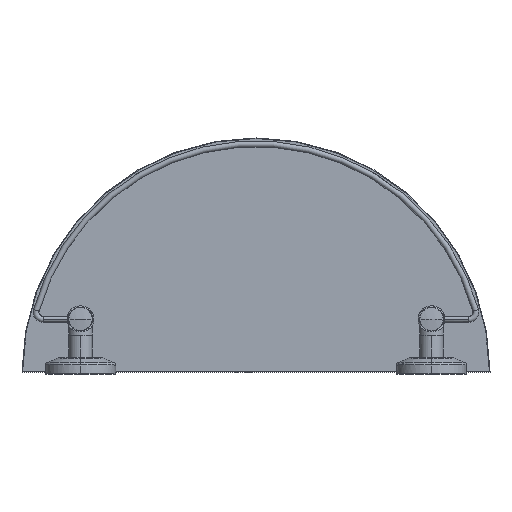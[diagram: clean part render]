
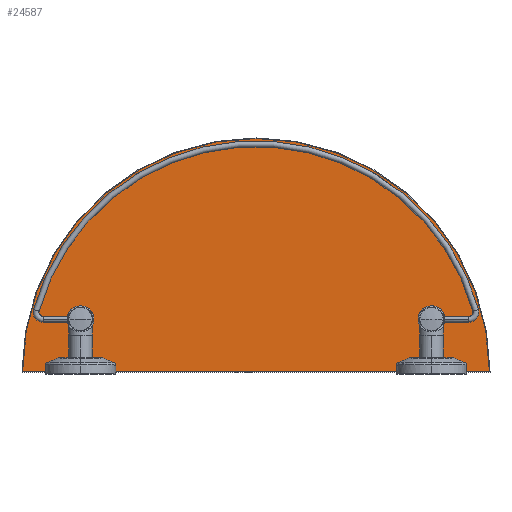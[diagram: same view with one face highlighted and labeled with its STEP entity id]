
A CAD part, top view. The second image highlights one B-rep face of the part: STEP entity #24587.
In plain terms, the highlighted planar face has unit normal (0, 0, 1).
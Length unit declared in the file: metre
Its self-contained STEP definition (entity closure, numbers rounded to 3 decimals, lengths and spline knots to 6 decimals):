
#24389=VERTEX_POINT('',#24390);
#24390=CARTESIAN_POINT('',(-0.294,0.0329,-0.0631));
#24396=EDGE_CURVE('',#24397,#24389,#24399,.T.);
#24397=VERTEX_POINT('',#24398);
#24398=CARTESIAN_POINT('',(-0.306,0.0329,-0.0631));
#24399=CIRCLE('',#24400,0.006);
#24400=AXIS2_PLACEMENT_3D('',#24401,#24402,#24403);
#24401=CARTESIAN_POINT('',(-0.3,0.0329,-0.0631));
#24402=DIRECTION('',(0.0,0.0,-1.0));
#24403=DIRECTION('',(-1.0,0.0,0.0));
#24431=VERTEX_POINT('',#24432);
#24432=CARTESIAN_POINT('',(0.006,0.0329,-0.0631));
#24438=EDGE_CURVE('',#24439,#24431,#24441,.T.);
#24439=VERTEX_POINT('',#24440);
#24440=CARTESIAN_POINT('',(-0.006,0.0329,-0.0631));
#24441=CIRCLE('',#24442,0.006);
#24442=AXIS2_PLACEMENT_3D('',#24443,#24444,#24445);
#24443=CARTESIAN_POINT('',(0.0,0.0329,-0.0631));
#24444=DIRECTION('',(0.0,0.0,-1.0));
#24445=DIRECTION('',(-1.0,0.0,0.0));
#24505=CARTESIAN_POINT('',(0.006,0.0329,-0.0631));
#24506=EDGE_CURVE('',#24431,#24439,#24507,.T.);
#24507=(B_SPLINE_CURVE(3,(#24505,#24508,#24509,#24510),.UNSPECIFIED.,.F.,
  .U.)B_SPLINE_CURVE_WITH_KNOTS((4,4),(0.0,1.0),.UNSPECIFIED.)BOUNDED_CURVE(
  )CURVE()GEOMETRIC_REPRESENTATION_ITEM()RATIONAL_B_SPLINE_CURVE((1.0,
  0.333,0.333,1.0))REPRESENTATION_ITEM(''));
#24508=CARTESIAN_POINT('',(0.006,0.0209,-0.0631));
#24509=CARTESIAN_POINT('',(-0.006,0.0209,-0.0631));
#24510=CARTESIAN_POINT('',(-0.006,0.0329,-0.0631));
#24524=CARTESIAN_POINT('',(-0.294,0.0329,-0.0631));
#24525=EDGE_CURVE('',#24389,#24397,#24526,.T.);
#24526=(B_SPLINE_CURVE(3,(#24524,#24527,#24528,#24529),.UNSPECIFIED.,.F.,
  .U.)B_SPLINE_CURVE_WITH_KNOTS((4,4),(0.0,1.0),.UNSPECIFIED.)BOUNDED_CURVE(
  )CURVE()GEOMETRIC_REPRESENTATION_ITEM()RATIONAL_B_SPLINE_CURVE((1.0,
  0.333,0.333,1.0))REPRESENTATION_ITEM(''));
#24527=CARTESIAN_POINT('',(-0.294,0.0209,-0.0631));
#24528=CARTESIAN_POINT('',(-0.306,0.0209,-0.0631));
#24529=CARTESIAN_POINT('',(-0.306,0.0329,-0.0631));
#24587=ADVANCED_FACE('',(#24593,#24612,#24616),#24588,.F.);
#24588=PLANE('',#24589);
#24589=AXIS2_PLACEMENT_3D('',#24590,#24591,#24592);
#24590=CARTESIAN_POINT('',(-0.15,-0.0121,-0.0631));
#24591=DIRECTION('',(0.0,0.0,-1.0));
#24592=DIRECTION('',(0.0,-1.0,0.0));
#24593=FACE_OUTER_BOUND('',#24594,.T.);
#24594=EDGE_LOOP('',(#24595,#24606));
#24595=ORIENTED_EDGE('',*,*,#24596,.T.);
#24596=EDGE_CURVE('',#24597,#24599,#24601,.F.);
#24597=VERTEX_POINT('',#24598);
#24598=CARTESIAN_POINT('',(0.049499,-0.0116,-0.0631));
#24599=VERTEX_POINT('',#24600);
#24600=CARTESIAN_POINT('',(-0.349499,-0.0116,-0.0631));
#24601=CIRCLE('',#24602,0.1995);
#24602=AXIS2_PLACEMENT_3D('',#24603,#24604,#24605);
#24603=CARTESIAN_POINT('',(-0.15,-0.0121,-0.0631));
#24604=DIRECTION('',(0.0,0.0,-1.0));
#24605=DIRECTION('',(-1.0,0.0,0.0));
#24606=ORIENTED_EDGE('',*,*,#24607,.T.);
#24607=EDGE_CURVE('',#24599,#24597,#24608,.T.);
#24608=LINE('',#24609,#24610);
#24609=CARTESIAN_POINT('',(-0.15,-0.0116,-0.0631));
#24610=VECTOR('',#24611,1.0);
#24611=DIRECTION('',(1.0,0.0,0.0));
#24612=FACE_BOUND('',#24613,.T.);
#24613=EDGE_LOOP('',(#24614,#24615));
#24614=ORIENTED_EDGE('',*,*,#24396,.T.);
#24615=ORIENTED_EDGE('',*,*,#24525,.T.);
#24616=FACE_BOUND('',#24617,.T.);
#24617=EDGE_LOOP('',(#24618,#24619));
#24618=ORIENTED_EDGE('',*,*,#24438,.T.);
#24619=ORIENTED_EDGE('',*,*,#24506,.T.);
